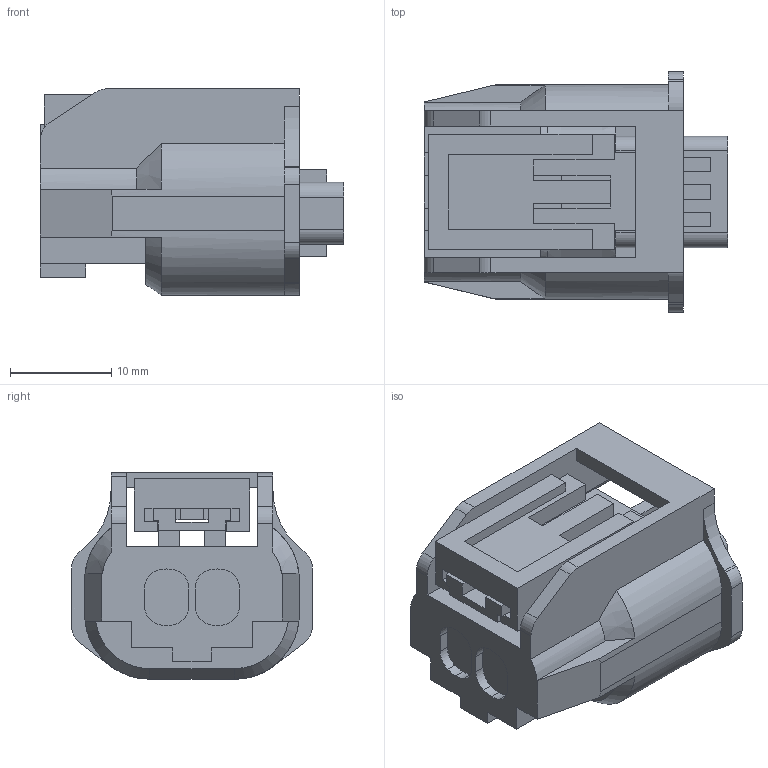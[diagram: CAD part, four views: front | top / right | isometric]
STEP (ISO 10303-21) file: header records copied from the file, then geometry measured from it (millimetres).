
FILE_DESCRIPTION(('CATIA V5 STEP Exchange','CAx-IF Rec.Pracs.--- Model Styling and Organization---1.2---2011-12-15'),'2;1');
FILE_NAME('\\Fss01.ad.sws.co.jp\fs030008\技術管理部\共通\業務\3D設計推進\カタログ用３Ｄ\仮置き\US(Sealed)\6189-7373(CPA close).stp','2016-02-18T02:08:02+00:00',('none'),('none'),'CATIA Version 5-6 Release 2013 SP5 HF43','CATIA V5 STEP AP214','none');
FILE_SCHEMA(('AUTOMOTIVE_DESIGN { 1 0 10303 214 1 1 1 1 }'));
Length unit declared in the file: millimetre
Products named in the file (1): 6189-7373
Bounding box: 30 x 23.8 x 20.4 mm (x, y, z)
Volume: 6141.7 mm3; surface area: 5408.6 mm2
Topology: 1 solids, 2 shells, 254 faces, 765 edges, 514 vertices
Faces by surface type: plane 176, cylinder 60, bspline 10, extrusion 4, cone 4
Entity records: 8625 total; most frequent: CARTESIAN_POINT 1905, ORIENTED_EDGE 1530, DIRECTION 1106, EDGE_CURVE 765, VECTOR 579, LINE 575, VERTEX_POINT 514, AXIS2_PLACEMENT_3D 322
